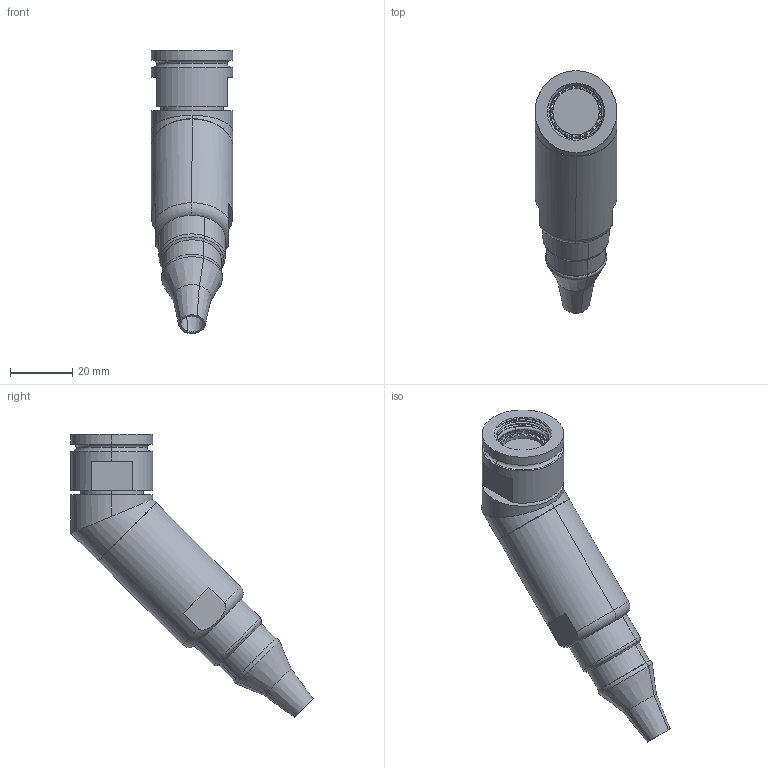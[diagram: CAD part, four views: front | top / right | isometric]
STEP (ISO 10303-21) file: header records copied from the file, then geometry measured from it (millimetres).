
FILE_DESCRIPTION (( 'STEP AP214' ), '1' );
FILE_NAME ('Q38SHELL-45X-13-XXXX-HX.STEP', '2025-09-25T19:46:16', ( '' ), ( '' ), 'SwSTEP 2.0', 'SolidWorks 2024', '' );
FILE_SCHEMA (( 'AUTOMOTIVE_DESIGN' ));
Length unit declared in the file: millimetre
Products named in the file (1): Q38SHELL-45X-13-XXXX-HX
Bounding box: 26.42 x 78.1 x 91.27 mm (x, y, z)
Volume: 44763.6 mm3; surface area: 11961 mm2
Topology: 2 solids, 2 shells, 180 faces, 460 edges, 296 vertices
Faces by surface type: plane 104, cylinder 39, cone 20, torus 14, bspline 3
Entity records: 6404 total; most frequent: CARTESIAN_POINT 2142, ORIENTED_EDGE 920, DIRECTION 908, EDGE_CURVE 460, AXIS2_PLACEMENT_3D 378, VERTEX_POINT 296, CIRCLE 200, EDGE_LOOP 194
